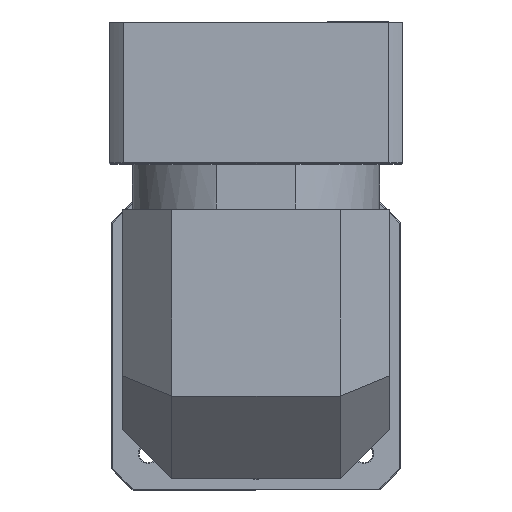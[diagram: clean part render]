
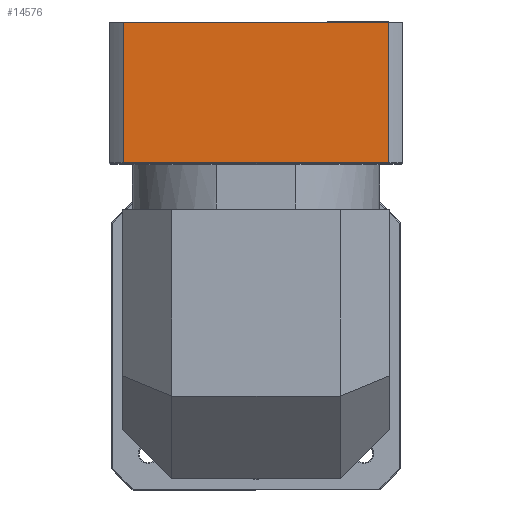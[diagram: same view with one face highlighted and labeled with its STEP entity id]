
A CAD part, top view. The second image highlights one B-rep face of the part: STEP entity #14576.
In plain terms, the highlighted planar face has unit normal (0, 0, 1).
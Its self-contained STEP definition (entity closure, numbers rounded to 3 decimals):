
#901 = PLANE ( 'NONE',  #25219 ) ;
#3961 = DIRECTION ( 'NONE',  ( 1., 0., 0. ) ) ;
#4739 = FACE_OUTER_BOUND ( 'NONE', #65348, .T. ) ;
#13938 = CARTESIAN_POINT ( 'NONE',  ( -16.196, 288.179, 105.818 ) ) ;
#14554 = EDGE_CURVE ( 'NONE', #73372, #49644, #93899, .T. ) ;
#14576 = ADVANCED_FACE ( 'NONE', ( #4739 ), #901, .F. ) ;
#15934 = LINE ( 'NONE', #106670, #66042 ) ;
#19159 = EDGE_CURVE ( 'NONE', #33249, #73372, #103365, .T. ) ;
#19537 = CARTESIAN_POINT ( 'NONE',  ( -16.704, 288.179, 105.818 ) ) ;
#22613 = LINE ( 'NONE', #13938, #66282 ) ;
#25219 = AXIS2_PLACEMENT_3D ( 'NONE', #109058, #61428, #102508 ) ;
#28533 = CARTESIAN_POINT ( 'NONE',  ( -16.704, -140.126, 105.818 ) ) ;
#33249 = VERTEX_POINT ( 'NONE', #19537 ) ;
#34222 = CARTESIAN_POINT ( 'NONE',  ( -177.689, 288.179, 105.818 ) ) ;
#35608 = DIRECTION ( 'NONE',  ( 0., 1., 0. ) ) ;
#49644 = VERTEX_POINT ( 'NONE', #82524 ) ;
#57647 = ORIENTED_EDGE ( 'NONE', *, *, #88887, .F. ) ;
#61428 = DIRECTION ( 'NONE',  ( 0., 0., -1. ) ) ;
#63380 = DIRECTION ( 'NONE',  ( -1., 0., 0. ) ) ;
#65348 = EDGE_LOOP ( 'NONE', ( #57647, #130441, #85303, #126466 ) ) ;
#66042 = VECTOR ( 'NONE', #35608, 1000. ) ;
#66282 = VECTOR ( 'NONE', #3961, 1000. ) ;
#73372 = VERTEX_POINT ( 'NONE', #108625 ) ;
#74604 = CARTESIAN_POINT ( 'NONE',  ( -8.196, 203.179, 105.818 ) ) ;
#80574 = VERTEX_POINT ( 'NONE', #34222 ) ;
#82524 = CARTESIAN_POINT ( 'NONE',  ( -177.689, 203.179, 105.818 ) ) ;
#85303 = ORIENTED_EDGE ( 'NONE', *, *, #19159, .F. ) ;
#88441 = EDGE_CURVE ( 'NONE', #80574, #33249, #22613, .T. ) ;
#88887 = EDGE_CURVE ( 'NONE', #49644, #80574, #15934, .T. ) ;
#93899 = LINE ( 'NONE', #74604, #116623 ) ;
#100049 = VECTOR ( 'NONE', #101362, 1000. ) ;
#101362 = DIRECTION ( 'NONE',  ( 0., -1., 0. ) ) ;
#102508 = DIRECTION ( 'NONE',  ( 0., -1., 0. ) ) ;
#103365 = LINE ( 'NONE', #28533, #100049 ) ;
#106670 = CARTESIAN_POINT ( 'NONE',  ( -177.689, -140.126, 105.818 ) ) ;
#108625 = CARTESIAN_POINT ( 'NONE',  ( -16.704, 203.179, 105.818 ) ) ;
#109058 = CARTESIAN_POINT ( 'NONE',  ( -8.196, 288.679, 105.818 ) ) ;
#116623 = VECTOR ( 'NONE', #63380, 1000. ) ;
#126466 = ORIENTED_EDGE ( 'NONE', *, *, #88441, .F. ) ;
#130441 = ORIENTED_EDGE ( 'NONE', *, *, #14554, .F. ) ;
